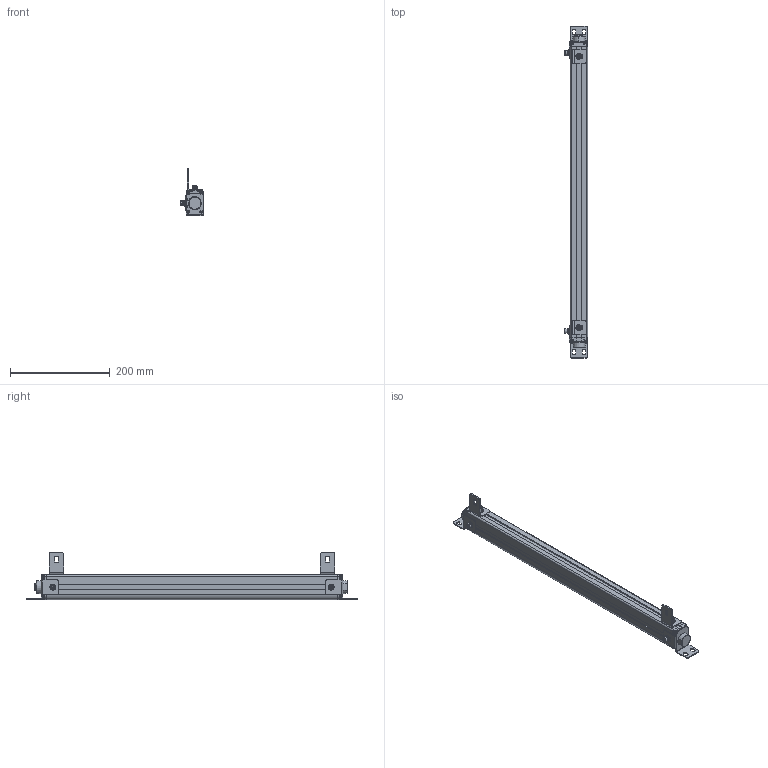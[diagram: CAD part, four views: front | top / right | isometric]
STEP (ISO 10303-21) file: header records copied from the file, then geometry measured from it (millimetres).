
FILE_DESCRIPTION((''),'2;1');
FILE_NAME('ESN--000_ASM','2021-08-10T21:21:18',('18720616900'),(''),'CREO PARAMETRIC BY PTC INC, 2019010','CREO PARAMETRIC BY PTC INC, 2019010','');
FILE_SCHEMA(('CONFIG_CONTROL_DESIGN'));
Length unit declared in the file: millimetre
Products named in the file (22): 00; 000; _0001; 4000; 4--0001; ESN_40001_ASM; L10001; M6-8--0001; M6-1--00; M6-1-00; M6-80001_ASM; L1--0001_ASM; _0002; 0005; ST-3-120001; H1--000; H1--0001_ASM; H1--0003_ASM; ESN--000_ASM
Assembly tree (34 placements, depth 4):
  ESN--000_ASM
    00
    000
    _0001
    000
    ESN_40001_ASM
      4000
      4--0001  x4
    L1--0001_ASM  x2
      L10001
      M6-80001_ASM
        M6-8--0001
        M6-1--00
        M6-1-00
        00
    _0002
    0005
    ST-3-120001  x8
    H1--0001_ASM
      H1--000
      M6-80001_ASM
        M6-8--0001
        M6-1--00
        M6-1-00
        00
    H1--0003_ASM
      H1--000
      M6-80001_ASM
        M6-8--0001
        M6-1--00
        M6-1-00
        00
Bounding box: 46.5 x 667 x 94.95 mm (x, y, z)
Volume: 933489.2 mm3; surface area: 211903.4 mm2
Topology: 39 solids, 39 shells, 1727 faces, 4555 edges, 2925 vertices
Faces by surface type: plane 541, cylinder 404, bspline 362, cone 291, torus 105, sphere 24
Entity records: 45714 total; most frequent: CARTESIAN_POINT 24222, ORIENTED_EDGE 4766, DIRECTION 3842, EDGE_CURVE 2383, VERTEX_POINT 1546, AXIS2_PLACEMENT_3D 1400, VECTOR 1042, LINE 1042
